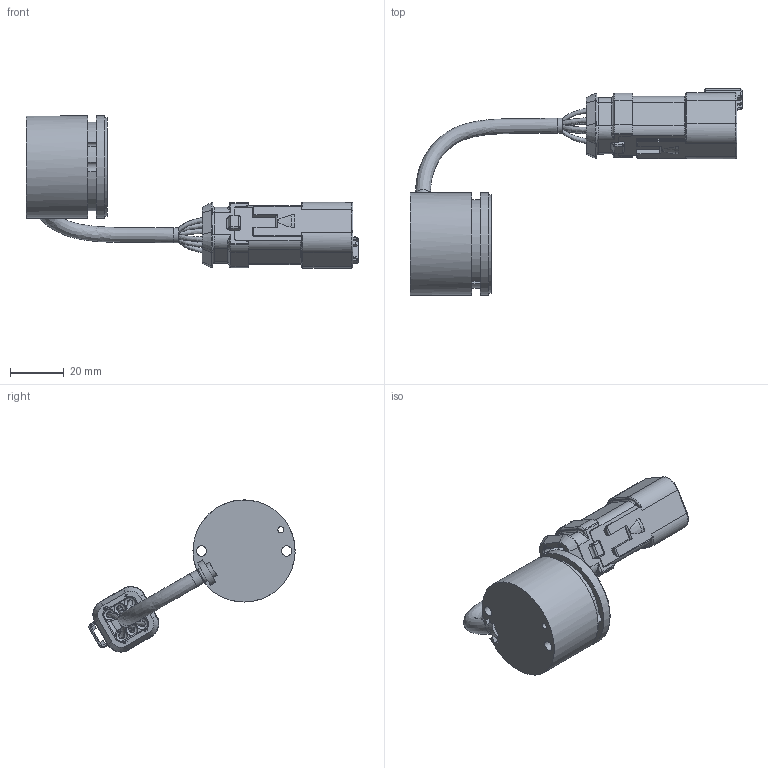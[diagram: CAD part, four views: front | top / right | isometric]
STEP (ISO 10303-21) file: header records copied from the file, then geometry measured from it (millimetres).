
FILE_DESCRIPTION(/* description */ (''),/* implementation_level */ '2;1');
FILE_NAME(/* name */ 'HP38-CUST-ASSY- WRAP.step',/* time_stamp */ '2024-06-12T11:54:59-05:00',/* author */ (''),/* organization */ (''),/* preprocessor_version */ 'ST-DEVELOPER v20',/* originating_system */ 'Autodesk Translation Framework v13.14.0.145',/* authorisation */ '');
FILE_SCHEMA (('AUTOMOTIVE_DESIGN { 1 0 10303 214 3 1 1 }'));
Products named in the file (1): HP38-CUST-ASSY- WRAP
Bounding box: 123.86 x 76.94 x 56.76 mm (x, y, z)
Volume: 47228.5 mm3; surface area: 17400.3 mm2
Topology: 1 solids, 1 shells, 2176 faces, 5968 edges, 3933 vertices
Faces by surface type: plane 1070, bspline 869, cylinder 159, torus 59, sphere 10, cone 9
Full cylindrical faces by diameter (mm): 1.562 x6, 1.8 x6, 1.916 x1, 2.261 x1, 3.81 x2, 4.191 x6, 5.6 x2, 25.4 x1, 26.924 x1, 36.576 x1, 38.1 x2
Entity records: 80023 total; most frequent: CARTESIAN_POINT 30395, ORIENTED_EDGE 11936, DIRECTION 7286, EDGE_CURVE 5968, VERTEX_POINT 3933, LINE 3702, VECTOR 3702, EDGE_LOOP 2341
